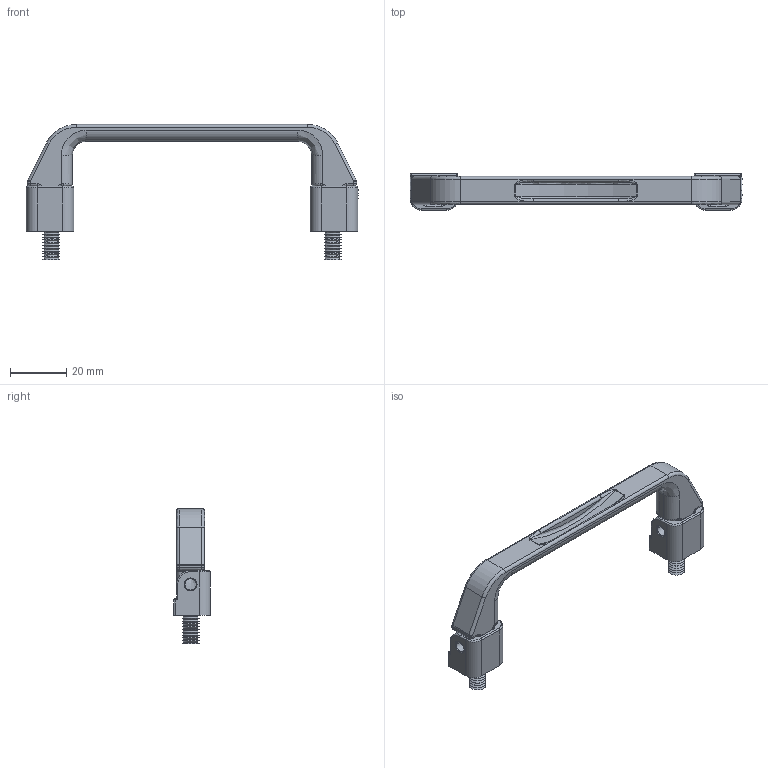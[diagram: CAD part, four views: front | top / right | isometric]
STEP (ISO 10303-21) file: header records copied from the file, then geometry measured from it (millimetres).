
FILE_DESCRIPTION (( 'STEP AP214' ), '1' );
FILE_NAME ('A80 KA-280-2.STEP', '2016-11-25T02:03:56', ( '' ), ( '' ), 'SwSTEP 2.0', 'SolidWorks 2011', '' );
FILE_SCHEMA (( 'AUTOMOTIVE_DESIGN' ));
Products named in the file (1): A80 KA-280-2
Bounding box: 118 x 13 x 48 mm (x, y, z)
Volume: 14714.9 mm3; surface area: 9269.1 mm2
Topology: 3 solids, 3 shells, 390 faces, 979 edges, 571 vertices
Faces by surface type: cylinder 125, bspline 104, cone 84, plane 77
Entity records: 36305 total; most frequent: CARTESIAN_POINT 27732, ORIENTED_EDGE 1902, DIRECTION 1660, EDGE_CURVE 951, AXIS2_PLACEMENT_3D 637, VERTEX_POINT 567, EDGE_LOOP 408, ADVANCED_FACE 390
